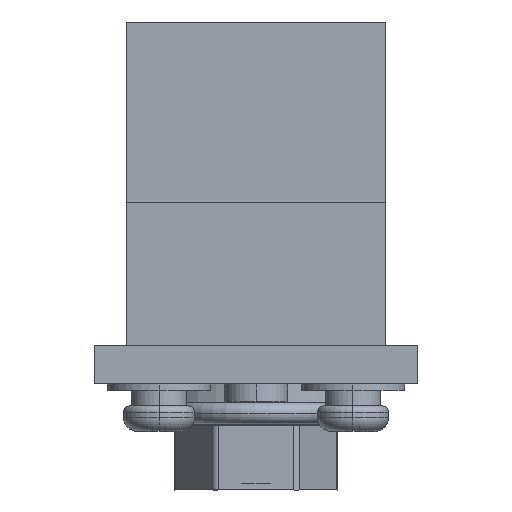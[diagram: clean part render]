
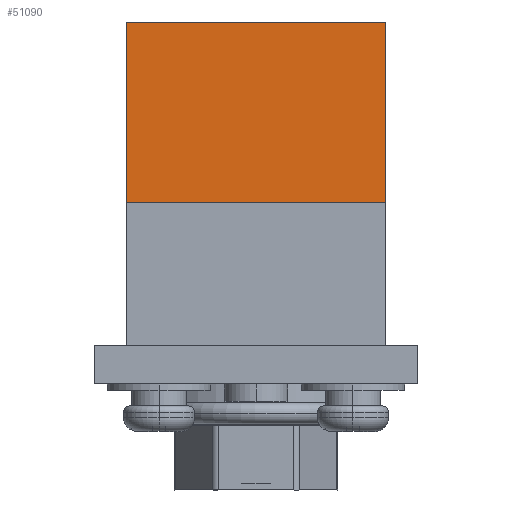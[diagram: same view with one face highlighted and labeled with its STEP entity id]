
A CAD part, left-side view. The second image highlights one B-rep face of the part: STEP entity #51090.
In plain terms, the highlighted planar face has unit normal (-1, 0, 0).
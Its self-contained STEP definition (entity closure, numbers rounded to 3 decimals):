
#49560=CARTESIAN_POINT('',(-27.488,66.46,28.));
#49570=VERTEX_POINT('',#49560);
#49600=CARTESIAN_POINT('',(-27.488,66.46,28.));
#49610=DIRECTION('',(0.,0.,-1.));
#49620=VECTOR('',#49610,1.);
#49630=LINE('',#49600,#49620);
#49640=CARTESIAN_POINT('',(-27.488,66.46,14.));
#49650=VERTEX_POINT('',#49640);
#49660=EDGE_CURVE('',#49570,#49650,#49630,.T.);
#50430=CARTESIAN_POINT('',(-27.488,46.46,28.));
#50440=VERTEX_POINT('',#50430);
#50470=CARTESIAN_POINT('',(-27.488,46.46,28.));
#50480=DIRECTION('',(0.,1.,0.));
#50490=VECTOR('',#50480,1.);
#50500=LINE('',#50470,#50490);
#50510=EDGE_CURVE('',#50440,#49570,#50500,.T.);
#50860=CARTESIAN_POINT('',(-27.488,66.46,28.));
#50870=DIRECTION('',(1.,0.,0.));
#50880=DIRECTION('',(0.,0.,1.));
#50890=AXIS2_PLACEMENT_3D('',#50860,#50870,#50880);
#50900=PLANE('',#50890);
#50910=ORIENTED_EDGE('',*,*,#49660,.T.);
#50920=ORIENTED_EDGE('',*,*,#50510,.T.);
#50930=CARTESIAN_POINT('',(-27.488,46.46,28.));
#50940=DIRECTION('',(0.,0.,-1.));
#50950=VECTOR('',#50940,1.);
#50960=LINE('',#50930,#50950);
#50970=CARTESIAN_POINT('',(-27.488,46.46,14.));
#50980=VERTEX_POINT('',#50970);
#50990=EDGE_CURVE('',#50440,#50980,#50960,.T.);
#51000=ORIENTED_EDGE('',*,*,#50990,.F.);
#51010=CARTESIAN_POINT('',(-27.488,46.46,14.));
#51020=DIRECTION('',(0.,1.,0.));
#51030=VECTOR('',#51020,1.);
#51040=LINE('',#51010,#51030);
#51050=EDGE_CURVE('',#50980,#49650,#51040,.T.);
#51060=ORIENTED_EDGE('',*,*,#51050,.F.);
#51070=EDGE_LOOP('',(#51060,#51000,#50920,#50910));
#51080=FACE_OUTER_BOUND('',#51070,.T.);
#51090=ADVANCED_FACE('',(#51080),#50900,.F.);
